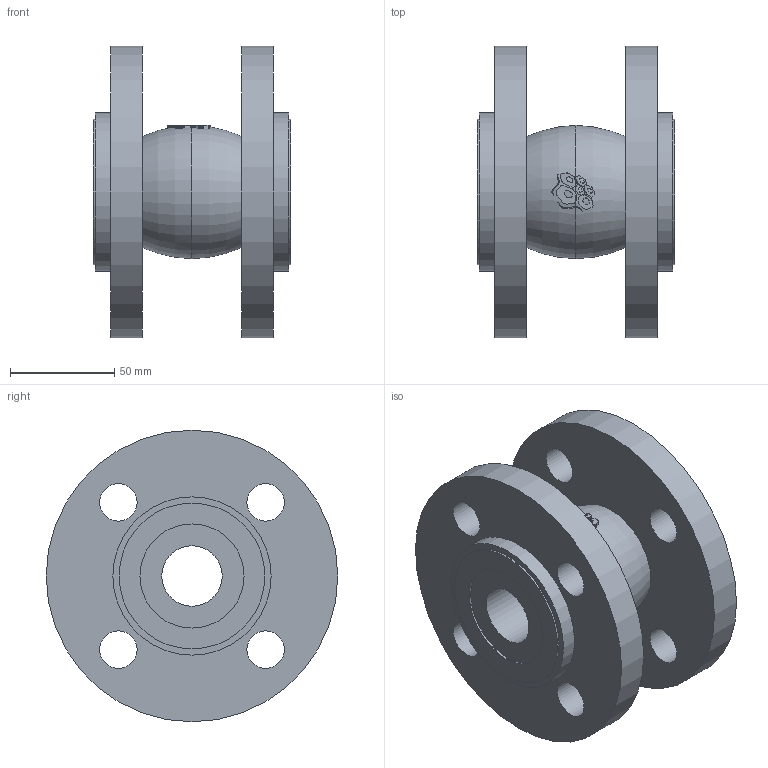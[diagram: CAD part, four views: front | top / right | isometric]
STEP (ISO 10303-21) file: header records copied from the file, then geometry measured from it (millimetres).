
FILE_DESCRIPTION(('STEP AP203'), '1');
FILE_NAME('3D_500_501-032-EPDM-FF', '', ('UNSPECIFIED'), ('UNSPECIFIED'), 'C3D Converter', 'C3D Toolkit', '');
FILE_SCHEMA(('CONFIG_CONTROL_DESIGN'));
Length unit declared in the file: millimetre
Bounding box: 95 x 140 x 140 mm (x, y, z)
Volume: 575159.6 mm3; surface area: 96787.8 mm2
Topology: 9 solids, 9 shells, 863 faces, 2528 edges, 1691 vertices
Faces by surface type: plane 839, cylinder 18, torus 6
Full cylindrical faces by diameter (mm): 18 x8, 29 x2, 50 x2, 70 x2, 76 x2, 140 x2
Entity records: 35030 total; most frequent: CARTESIAN_POINT 5059, ORIENTED_EDGE 5008, DIRECTION 4297, EDGE_CURVE 2504, LINE 2439, VECTOR 2439, VERTEX_POINT 1691, AXIS2_PLACEMENT_3D 929
